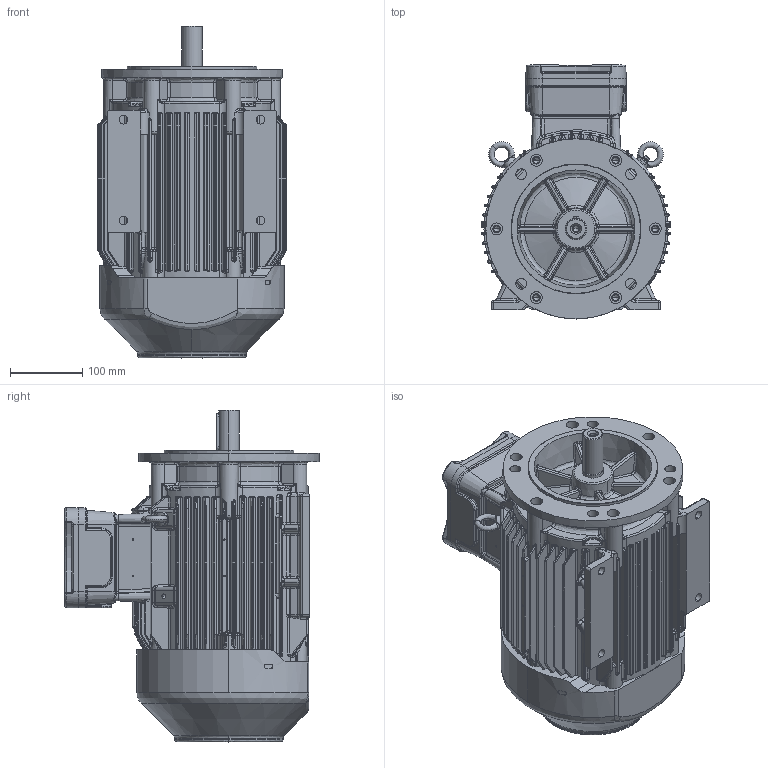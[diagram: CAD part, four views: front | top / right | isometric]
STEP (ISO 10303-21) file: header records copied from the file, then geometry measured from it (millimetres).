
FILE_DESCRIPTION (( 'STEP AP214' ), '1' );
FILE_NAME ('6RD112M6E3 IM2001.STEP', '2021-08-03T13:10:06', ( '' ), ( '' ), 'SwSTEP 2.0', 'SolidWorks 2018', '' );
FILE_SCHEMA (( 'AUTOMOTIVE_DESIGN' ));
Length unit declared in the file: millimetre
Products named in the file (1): 6RD112M6E3 IM2001
Bounding box: 262 x 352.5 x 460.55 mm (x, y, z)
Volume: 17778608 mm3; surface area: 841573.9 mm2
Topology: 1 solids, 27 shells, 4310 faces, 10404 edges, 6131 vertices
Faces by surface type: bspline 1751, cylinder 1695, plane 644, cone 212, torus 8
Entity records: 194942 total; most frequent: CARTESIAN_POINT 106602, ORIENTED_EDGE 20354, DIRECTION 16415, EDGE_CURVE 10177, AXIS2_PLACEMENT_3D 6830, VERTEX_POINT 6131, EDGE_LOOP 4548, ADVANCED_FACE 4310
